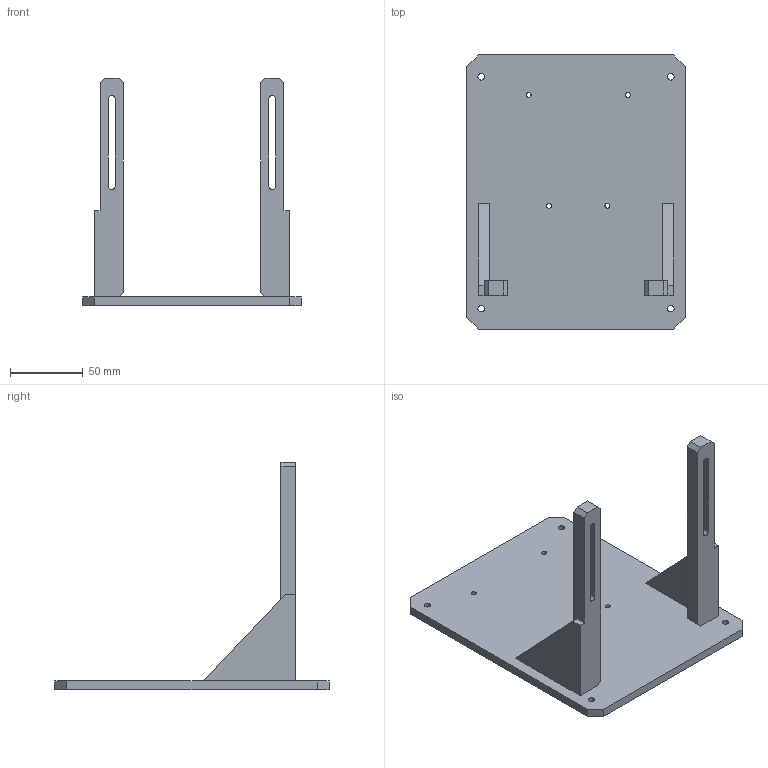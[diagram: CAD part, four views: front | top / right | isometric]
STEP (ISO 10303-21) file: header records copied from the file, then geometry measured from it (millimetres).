
FILE_DESCRIPTION (( 'STEP AP203' ), '1' );
FILE_NAME ('03_wrist_and_board_base.step', '2026-09-30T11:36:20', ( '' ), ( '' ), 'SwSTEP 2.0', 'SolidWorks 2025', '' );
FILE_SCHEMA (( 'CONFIG_CONTROL_DESIGN' ));
Length unit declared in the file: millimetre
Products named in the file (1): 03_wrist_and_board_base
Bounding box: 150 x 188 x 156 mm (x, y, z)
Volume: 238067.9 mm3; surface area: 83901.3 mm2
Topology: 1 solids, 1 shells, 60 faces, 168 edges, 112 vertices
Faces by surface type: plane 38, cylinder 22
Entity records: 2053 total; most frequent: CARTESIAN_POINT 341, ORIENTED_EDGE 336, DIRECTION 334, EDGE_CURVE 168, LINE 124, VECTOR 124, VERTEX_POINT 112, AXIS2_PLACEMENT_3D 105
